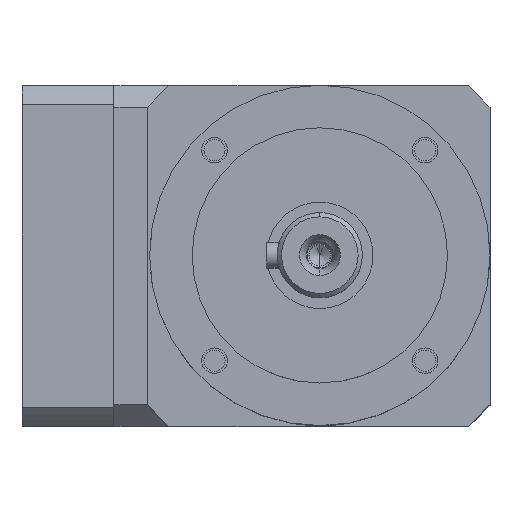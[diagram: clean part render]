
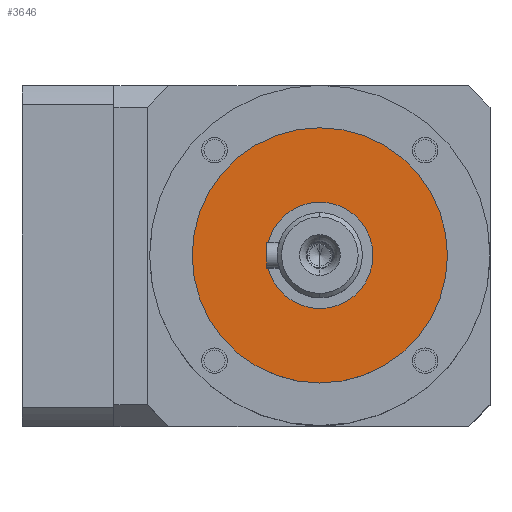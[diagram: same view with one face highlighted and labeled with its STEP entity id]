
A CAD part, top view. The second image highlights one B-rep face of the part: STEP entity #3646.
In plain terms, the highlighted planar face has unit normal (0, 0, 1).
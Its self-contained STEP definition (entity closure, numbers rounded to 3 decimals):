
#147=CARTESIAN_POINT('',(70.,0.,124.5));
#148=DIRECTION('',(0.,0.,-1.));
#149=DIRECTION('',(0.,-1.,0.));
#150=AXIS2_PLACEMENT_3D('',#147,#148,#149);
#152=CARTESIAN_POINT('',(70.,0.,124.5));
#153=DIRECTION('',(0.,0.,1.));
#154=DIRECTION('',(0.,-1.,0.));
#155=AXIS2_PLACEMENT_3D('',#152,#153,#154);
#162=CARTESIAN_POINT('',(70.,0.,124.5));
#163=DIRECTION('',(0.,0.,1.));
#164=DIRECTION('',(0.,-1.,0.));
#165=AXIS2_PLACEMENT_3D('',#162,#163,#164);
#2473=CARTESIAN_POINT('',(70.,0.,124.5));
#2474=DIRECTION('',(0.,0.,-1.));
#2475=DIRECTION('',(0.,-1.,0.));
#2476=AXIS2_PLACEMENT_3D('',#2473,#2474,#2475);
#2699=CARTESIAN_POINT('',(70.,-12.5,124.5));
#2701=VERTEX_POINT('',#2699);
#2703=CARTESIAN_POINT('',(70.,12.5,124.5));
#2705=VERTEX_POINT('',#2703);
#2710=CARTESIAN_POINT('',(70.,-30.,124.5));
#2711=CARTESIAN_POINT('',(70.,30.,124.5));
#2712=VERTEX_POINT('',#2710);
#2713=VERTEX_POINT('',#2711);
#3631=CARTESIAN_POINT('',(70.,0.,124.5));
#3632=DIRECTION('',(0.,0.,1.));
#3633=DIRECTION('',(0.,1.,0.));
#3634=AXIS2_PLACEMENT_3D('',#3631,#3632,#3633);
#3635=PLANE('',#3634);
#3637=ORIENTED_EDGE('',*,*,#3636,.F.);
#3639=ORIENTED_EDGE('',*,*,#3638,.T.);
#3640=EDGE_LOOP('',(#3637,#3639));
#3641=FACE_OUTER_BOUND('',#3640,.F.);
#3642=ORIENTED_EDGE('',*,*,#3617,.F.);
#3643=ORIENTED_EDGE('',*,*,#3599,.T.);
#3644=EDGE_LOOP('',(#3642,#3643));
#3645=FACE_BOUND('',#3644,.F.);
#151=CIRCLE('',#150,12.5);
#156=CIRCLE('',#155,12.5);
#166=CIRCLE('',#165,30.);
#2477=CIRCLE('',#2476,30.);
#3599=EDGE_CURVE('',#2701,#2705,#156,.T.);
#3617=EDGE_CURVE('',#2701,#2705,#151,.T.);
#3636=EDGE_CURVE('',#2712,#2713,#166,.T.);
#3638=EDGE_CURVE('',#2712,#2713,#2477,.T.);
#3646=ADVANCED_FACE('',(#3641,#3645),#3635,.T.);
